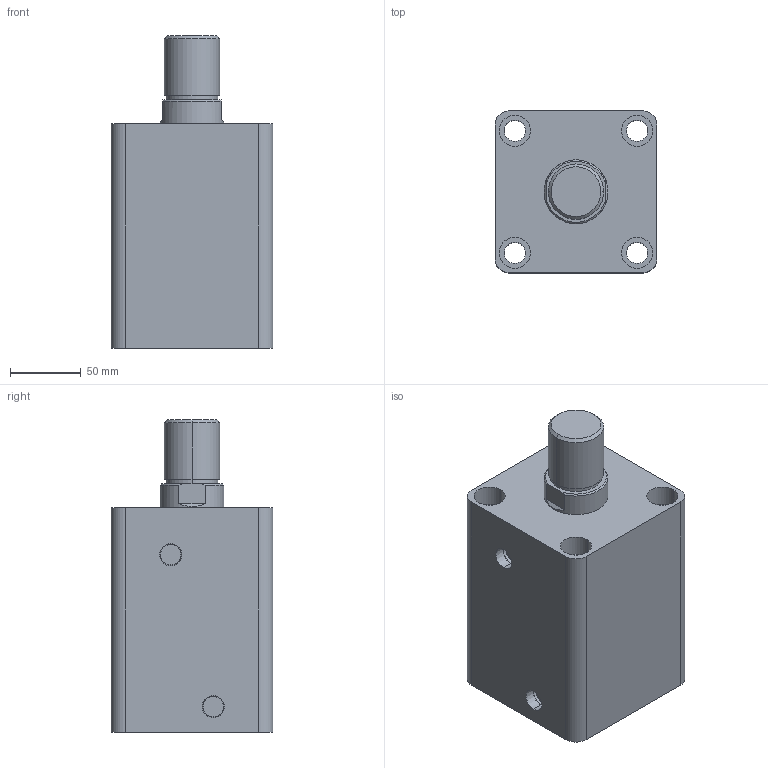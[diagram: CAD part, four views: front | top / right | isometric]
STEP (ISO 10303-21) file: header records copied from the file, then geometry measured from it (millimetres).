
FILE_DESCRIPTION (( 'STEP AP203' ), '1' );
FILE_NAME ('HTB-SD80-80W.STEP', '2019-10-07T08:36:59', ( '微软用户' ), ( '微软中国' ), 'SwSTEP 2.0', 'SolidWorks 2012', '' );
FILE_SCHEMA (( 'CONFIG_CONTROL_DESIGN' ));
Length unit declared in the file: millimetre
Products named in the file (3): HTB-SD80-80W; HTB-SD80-80W活塞杆; HTB-SD80-80掛极
Assembly tree (2 placements, depth 2):
  HTB-SD80-80W
    HTB-SD80-80掛极
    HTB-SD80-80W活塞杆
Bounding box: 114 x 114 x 220 mm (x, y, z)
Volume: 1704371.9 mm3; surface area: 207782.5 mm2
Topology: 2 solids, 2 shells, 87 faces, 190 edges, 124 vertices
Faces by surface type: cylinder 44, plane 29, cone 8, torus 6
Entity records: 2761 total; most frequent: DIRECTION 478, CARTESIAN_POINT 434, ORIENTED_EDGE 380, AXIS2_PLACEMENT_3D 204, EDGE_CURVE 190, VERTEX_POINT 124, CIRCLE 112, EDGE_LOOP 112
